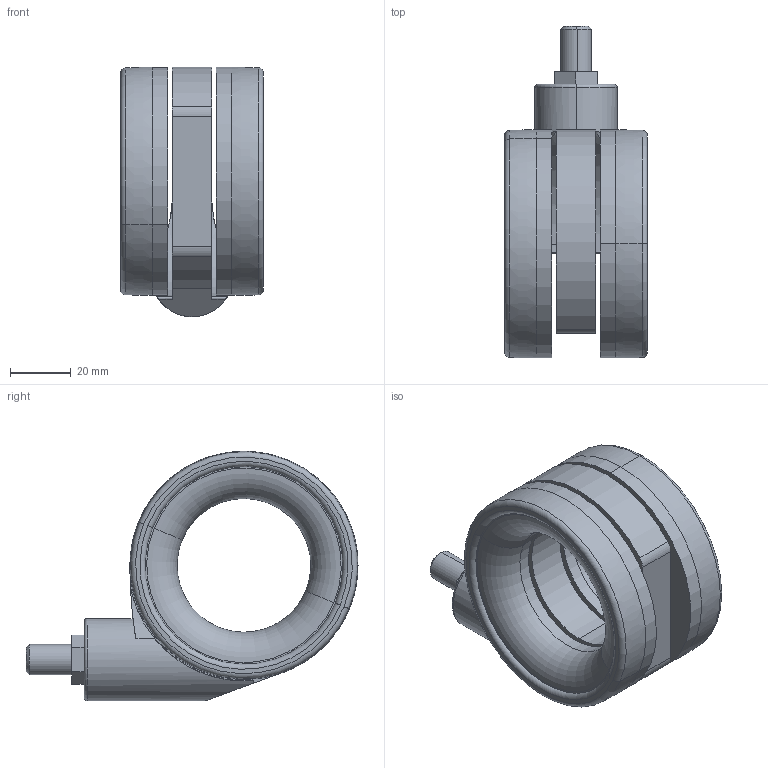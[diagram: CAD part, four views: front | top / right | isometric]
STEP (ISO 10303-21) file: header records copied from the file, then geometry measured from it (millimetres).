
FILE_DESCRIPTION (( 'STEP AP214' ), '1' );
FILE_NAME ('KOO EVO-75-M8 M10.STEP', '2020-03-31T12:00:18', ( '' ), ( '' ), 'SwSTEP 2.0', 'SolidWorks 2019', '' );
FILE_SCHEMA (( 'AUTOMOTIVE_DESIGN' ));
Length unit declared in the file: millimetre
Products named in the file (5): KOO EVO-75-M8 M10; KOO EVO-75-P_partsB; bolt; nut; KOO EVO-75-P_wheel
Assembly tree (5 placements, depth 2):
  KOO EVO-75-M8 M10
    KOO EVO-75-P_partsB
    KOO EVO-75-P_wheel  x2
    nut
    bolt
Bounding box: 47 x 109.17 x 82 mm (x, y, z)
Volume: 132983.3 mm3; surface area: 36666.8 mm2
Topology: 5 solids, 5 shells, 74 faces, 166 edges, 104 vertices
Faces by surface type: cylinder 33, plane 21, torus 18, cone 2
Entity records: 1974 total; most frequent: CARTESIAN_POINT 433, DIRECTION 312, ORIENTED_EDGE 264, EDGE_CURVE 132, AXIS2_PLACEMENT_3D 129, VERTEX_POINT 84, CIRCLE 64, EDGE_LOOP 64
